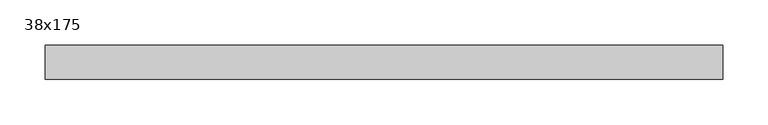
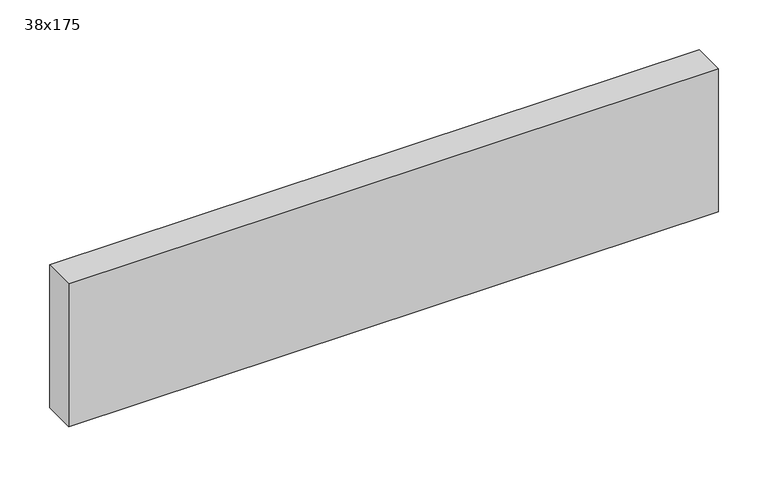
"""IFC4 building model written with IfcOpenShell, lengths in millimetres: beam geometry, Graded Timber : 38x175."""

from ifc_helpers import new_model, si_unit, frame, origin, place, context, project, spatial, polyline, outline, extrude, source, transform, mapped, element, save


def beam_38x175_f47548d0(model_context):
    return source(origin(), model_context, "Body", "SweptSolid", [
        extrude(outline(polyline([(370.786276, 19.0), (370.786276, -19.0), (-380.5001904, -19.0), (-380.5001904, 19.0), (370.786276, 19.0)])), frame((0.0, 0.0, -87.5), z_axis=(0.0, 0.0, 1.0), x_axis=(1.0, 0.0, 0.0)), (0.0, 0.0, 1.0), 175.0),
    ])


if __name__ == "__main__":
    model = new_model("IFC4")
    model_context = context("Model", 3, world=origin())
    ifc_project = project(units=[si_unit("LENGTHUNIT", "METRE", prefix="MILLI")], contexts=[model_context])
    site = spatial("IfcSite", under=ifc_project)
    building = spatial("IfcBuilding", under=site)
    placement = place(None, origin())
    beam_38x175_shape = beam_38x175_f47548d0(model_context)
    element("IfcBeam", 1, ObjectType="Graded Timber : 38x175", at=placement, inside=building, context=model_context, shape_type="MappedRepresentation", body=[
        mapped(beam_38x175_shape, transform((0.0, 0.0, 0.0), x_axis=(1.0, 0.0, 0.0), y_axis=(0.0, 1.0, 0.0), z_axis=(0.0, 0.0, 1.0))),
    ])
    save(model, "model.ifc")
